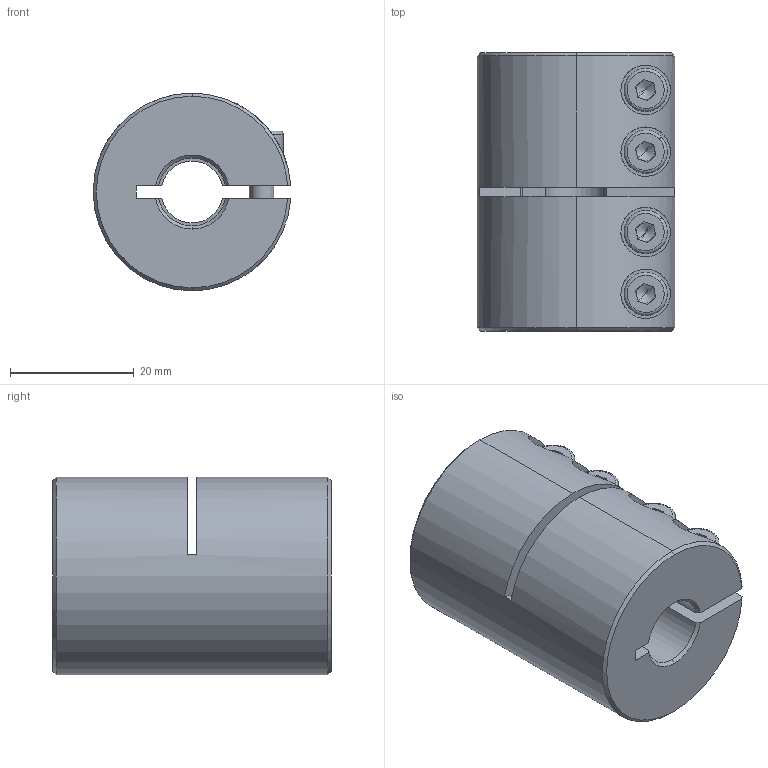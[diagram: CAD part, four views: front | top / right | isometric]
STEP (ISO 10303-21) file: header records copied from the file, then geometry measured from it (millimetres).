
FILE_DESCRIPTION (( 'STEP AP214' ), '1' );
FILE_NAME ('LL-B-D32L45-10-11½¨Ä£.STEP', '2022-07-21T07:07:47', ( '' ), ( '' ), 'SwSTEP 2.0', 'SolidWorks 2022', '' );
FILE_SCHEMA (( 'AUTOMOTIVE_DESIGN' ));
Length unit declared in the file: millimetre
Products named in the file (1): LL-B-D32L45-10-11膘耀
Bounding box: 31.97 x 45 x 32 mm (x, y, z)
Volume: 29777.3 mm3; surface area: 10769.9 mm2
Topology: 1 solids, 1 shells, 193 faces, 492 edges, 309 vertices
Faces by surface type: plane 88, cylinder 77, cone 20, torus 8
Entity records: 6357 total; most frequent: CARTESIAN_POINT 1583, DIRECTION 1037, ORIENTED_EDGE 968, EDGE_CURVE 484, AXIS2_PLACEMENT_3D 403, VERTEX_POINT 309, LINE 231, VECTOR 231
